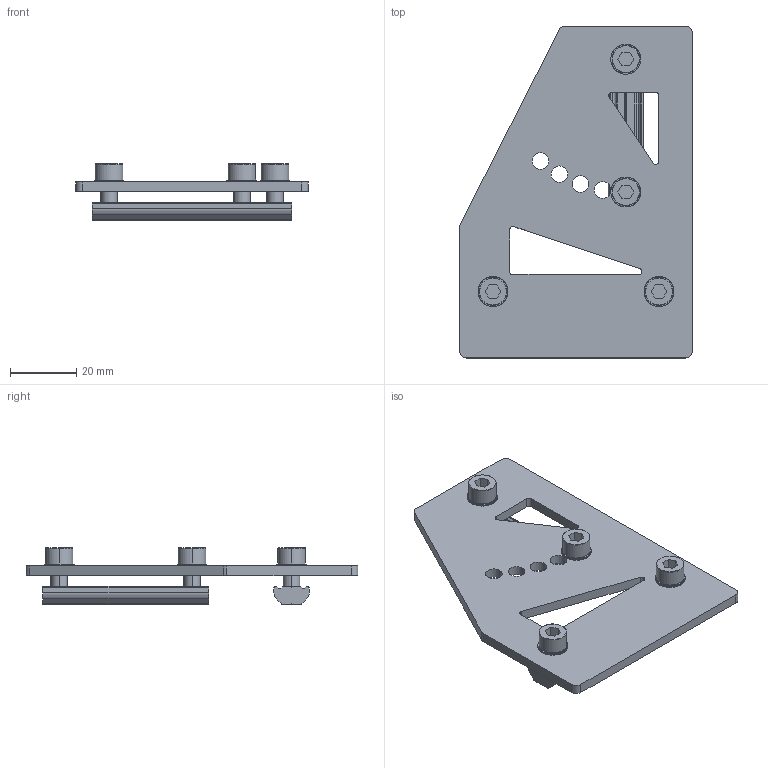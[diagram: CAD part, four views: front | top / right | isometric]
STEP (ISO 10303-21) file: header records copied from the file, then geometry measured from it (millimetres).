
FILE_DESCRIPTION (( 'STEP AP214' ), '1' );
FILE_NAME ('SFP-A70.STEP', '2019-10-31T00:56:18', ( '微软用户' ), ( '微软中国' ), 'SwSTEP 2.0', 'SolidWorks 2016', '' );
FILE_SCHEMA (( 'AUTOMOTIVE_DESIGN' ));
Length unit declared in the file: millimetre
Products named in the file (6): PTN-M5P40; PTS-M5; PTN-M5P50; PTC-M5L12; SFP-A70
Assembly tree (11 placements, depth 2):
  SFP-A70
    SFP-A70
    PTC-M5L12  x4
    PTN-M5P50
    PTS-M5  x4
    PTN-M5P40
Bounding box: 70 x 100 x 17 mm (x, y, z)
Volume: 23063.1 mm3; surface area: 18657.2 mm2
Topology: 11 solids, 11 shells, 877 faces, 2565 edges, 1702 vertices
Faces by surface type: plane 749, cylinder 104, cone 24
Entity records: 11513 total; most frequent: CARTESIAN_POINT 2326, ORIENTED_EDGE 1926, DIRECTION 1887, EDGE_CURVE 963, AXIS2_PLACEMENT_3D 649, VERTEX_POINT 640, VECTOR 589, LINE 589
